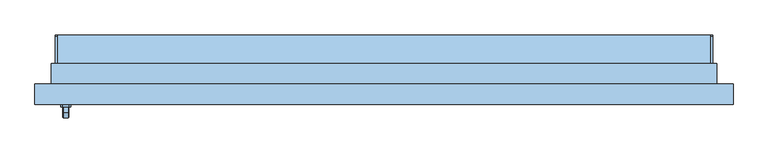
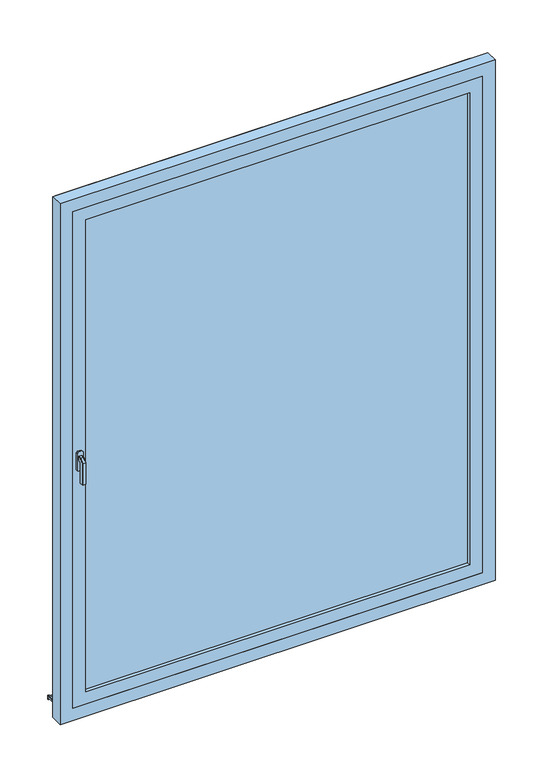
"""IFC4 building model written with IfcOpenShell, lengths in millimetres: window geometry, PF 1 Vantail - Droite blanc : 160/210."""

from ifc_helpers import new_model, si_unit, point, frame, frame_2d, origin, place, context, project, spatial, polyline, circle_curve, trimmed, segment, composite_curve, outline, extrude, faceted_brep, source, transform, mapped, element, save


def window_8530ac72(model_context):
    return source(origin(), model_context, "Body", "SolidModel", [
        faceted_brep([(-769.3539903, -86.0, 1122.0339292), (-767.9660708, -86.0, 1120.6460097), (-767.9660708, -86.0, 1109.3323012), (-769.3323012, -86.0, 1107.9660708), (-780.6676988, -86.0, 1107.9660708), (-782.0339292, -86.0, 1109.3323012), (-782.0339292, -86.0, 1120.6460097), (-780.6460097, -86.0, 1122.0339292), (-769.3539903, -98.9135489, 1122.0339292), (-767.9660708, -98.3386538, 1120.6460097), (-767.9660708, -111.6460097, 1107.3386538), (-767.9660708, -111.6460097, 1020.0), (-767.9660708, -100.3323012, 1020.0), (-767.9660708, -100.3323012, 1102.6523623), (-767.9660708, -93.6523623, 1109.3323012), (-769.3323012, -93.0864511, 1107.9660708), (-780.6676988, -93.0864511, 1107.9660708), (-782.0339292, -93.6523623, 1109.3323012), (-782.0339292, -100.3323012, 1102.6523623), (-782.0339292, -100.3323012, 1020.0), (-782.0339292, -111.6460097, 1020.0), (-782.0339292, -111.6460097, 1107.3386538), (-782.0339292, -98.3386538, 1120.6460097), (-780.6460097, -98.9135489, 1122.0339292), (-769.3539903, -113.0339292, 1107.9135489), (-769.3323012, -98.9660708, 1102.0864511), (-780.6676988, -98.9660708, 1102.0864511), (-780.6460097, -113.0339292, 1107.9135489), (-769.3539903, -113.0339292, 1020.0), (-780.6460097, -113.0339292, 1020.0), (-780.6676988, -98.9660708, 1020.0), (-769.3323012, -98.9660708, 1020.0)], [[[0, 1, 2, 3, 4, 5, 6, 7]], [[1, 0, 8, 9]], [[2, 1, 9, 10, 11, 12, 13, 14]], [[3, 2, 14, 15]], [[4, 3, 15, 16]], [[5, 4, 16, 17]], [[6, 5, 17, 18, 19, 20, 21, 22]], [[7, 6, 22, 23]], [[0, 7, 23, 8]], [[9, 8, 24, 10]], [[15, 14, 13, 25]], [[16, 15, 25, 26]], [[17, 16, 26, 18]], [[23, 22, 21, 27]], [[8, 23, 27, 24]], [[28, 29, 20, 19, 30, 31, 12, 11]], [[10, 24, 28, 11]], [[25, 13, 12, 31]], [[26, 25, 31, 30]], [[18, 26, 30, 19]], [[27, 21, 20, 29]], [[24, 27, 29, 28]]]),
        extrude(outline(polyline([(1140.0, -768.0), (1140.0, -782.0), (1135.0, -787.0), (1065.0, -787.0), (1060.0, -782.0), (1060.0, -768.0), (1065.0, -763.0), (1135.0, -763.0), (1140.0, -768.0)])), frame((0.0, -86.0, 0.0), z_axis=(0.0, 1.0, 0.0), x_axis=(0.0, 0.0, 1.0)), (0.0, 0.0, 1.0), 6.0),
        extrude(outline(polyline([(90.0288776, 30.7927954), (90.0288776, 19.7145929), (85.0288776, 20.2401141), (85.0288776, 26.0631048), (0.0, 35.0), (0.0, 50.0), (5.0, 50.0), (5.0, 39.7296906), (90.0288776, 30.7927954)])), frame((-800.0, 0.0, 0.0), z_axis=(1.0, 0.0, 0.0), x_axis=(0.0, 1.0, 0.0)), (0.0, 0.0, 1.0), 1600.0),
        extrude(outline(composite_curve([segment(polyline([(90.0288776, 30.7927954), (5.0, 39.7296906), (5.0, 44.757232), (86.4469915, 36.1968082)]), True, "CONTINUOUS"), segment(trimmed(circle_curve(frame_2d((86.0288776, 32.2187207)), 4.0), [point((86.4469915, 36.1968082))], [point((90.0288776, 32.2187207))], False, "CARTESIAN"), True, "CONTINUOUS"), segment(polyline([(90.0288776, 32.2187207), (90.0288776, 30.7927954)]), True, "CONTINUOUS")], self_intersect=False)), frame((-800.0, 0.0, 0.0), z_axis=(1.0, 0.0, 0.0), x_axis=(0.0, 1.0, 0.0)), (0.0, 0.0, 1.0), 5.0),
        extrude(outline(composite_curve([segment(polyline([(90.0288776, 30.7927954), (5.0, 39.7296906), (5.0, 44.757232), (86.4469915, 36.1968082)]), True, "CONTINUOUS"), segment(trimmed(circle_curve(frame_2d((86.0288776, 32.2187207)), 4.0), [point((86.4469915, 36.1968082))], [point((90.0288776, 32.2187207))], False, "CARTESIAN"), True, "CONTINUOUS"), segment(polyline([(90.0288776, 32.2187207), (90.0288776, 30.7927954)]), True, "CONTINUOUS")], self_intersect=False)), frame((795.0, 0.0, 0.0), z_axis=(1.0, 0.0, 0.0), x_axis=(0.0, 1.0, 0.0)), (0.0, 0.0, 1.0), 5.0),
        extrude(outline(polyline([(-750.0, -54.0), (750.0, -54.0), (750.0, -66.0), (-750.0, -66.0), (-750.0, -54.0)])), frame((0.0, 0.0, 135.0), z_axis=(0.0, 0.0, 1.0), x_axis=(1.0, 0.0, 0.0)), (0.0, 0.0, 1.0), 1950.0),
        extrude(outline(polyline([(85.0, 800.0), (2135.0, 800.0), (2135.0, -800.0), (85.0, -800.0), (85.0, 800.0)]), holes=[polyline([(135.0, -750.0), (2085.0, -750.0), (2085.0, 750.0), (135.0, 750.0), (135.0, -750.0)])]), frame((0.0, -80.0, 0.0), z_axis=(0.0, 1.0, 0.0), x_axis=(0.0, 0.0, 1.0)), (0.0, 0.0, 1.0), 40.0),
        faceted_brep([(-850.0, -80.0, 35.0), (-850.0, -30.0, 35.0), (-800.0, -30.0, 35.0), (-800.0, 0.0, 35.0), (800.0, 0.0, 35.0), (800.0, -30.0, 35.0), (850.0, -30.0, 35.0), (850.0, -80.0, 35.0), (-850.0, -80.0, 2185.0), (-850.0, -30.0, 2185.0), (850.0, -30.0, 2185.0), (800.0, -30.0, 74.3761425), (-800.0, -30.0, 74.3761425), (-785.0, -30.0, 2120.0), (-785.0, -30.0, 100.0), (785.0, -30.0, 100.0), (785.0, -30.0, 2120.0), (-800.0, 20.0, 60.9786829), (-800.0, 20.0, 45.0), (-800.0, 10.0, 45.0), (-800.0, 10.0, 50.0), (-800.0, 0.0, 50.0), (800.0, 0.0, 50.0), (800.0, 10.0, 50.0), (800.0, 10.0, 45.0), (800.0, 20.0, 45.0), (800.0, 20.0, 60.9786829), (850.0, -80.0, 2185.0), (800.0, -80.0, 2135.0), (800.0, -80.0, 85.0), (-800.0, -80.0, 85.0), (-800.0, -80.0, 2135.0), (-785.0, -40.0, 2120.0), (-785.0, -40.0, 100.0), (785.0, -40.0, 100.0), (785.0, -40.0, 2120.0), (800.0, -40.0, 2135.0), (-800.0, -40.0, 2135.0), (-800.0, -40.0, 85.0), (800.0, -40.0, 85.0)], [[[0, 1, 2, 3, 4, 5, 6, 7]], [[1, 0, 8, 9]], [[1, 9, 10, 6, 5, 11, 12, 2], [13, 14, 15, 16]], [[12, 17, 18, 19, 20, 21, 3, 2]], [[3, 21, 22, 4]], [[4, 22, 23, 24, 25, 26, 11, 5]], [[6, 10, 27, 7]], [[0, 7, 27, 8], [28, 29, 30, 31]], [[13, 32, 33, 14]], [[33, 34, 15, 14]], [[35, 16, 15, 34]], [[17, 12, 11, 26]], [[36, 37, 38, 39], [32, 35, 34, 33]], [[38, 37, 31, 30]], [[30, 29, 39, 38]], [[28, 36, 39, 29]], [[18, 17, 26, 25]], [[19, 18, 25, 24]], [[20, 19, 24, 23]], [[21, 20, 23, 22]], [[13, 16, 35, 32]], [[37, 36, 28, 31]], [[10, 9, 8, 27]]]),
        extrude(outline(polyline([(35.0, -810.0), (35.0, -800.0), (2135.0, -800.0), (2135.0, 800.0), (35.0, 800.0), (35.0, 810.0), (2145.0, 810.0), (2145.0, -810.0), (35.0, -810.0)])), frame((0.0, -30.0, 0.0), z_axis=(0.0, 1.0, 0.0), x_axis=(0.0, 0.0, 1.0)), (0.0, 0.0, 1.0), 50.0),
    ])


if __name__ == "__main__":
    model = new_model("IFC4")
    model_context = context("Model", 3, world=origin())
    ifc_project = project(units=[si_unit("LENGTHUNIT", "METRE", prefix="MILLI")], contexts=[model_context])
    site = spatial("IfcSite", under=ifc_project)
    building = spatial("IfcBuilding", under=site)
    placement = place(None, origin())
    window_shape = window_8530ac72(model_context)
    element("IfcWindow", 1, ObjectType="PF 1 Vantail - Droite blanc : 160/210", at=placement, inside=building, context=model_context, shape_type="MappedRepresentation", body=[
        mapped(window_shape, transform((0.0, 0.0, 0.0), x_axis=(1.0, 0.0, 0.0), y_axis=(0.0, 1.0, 0.0), z_axis=(0.0, 0.0, 1.0))),
    ])
    save(model, "model.ifc")
